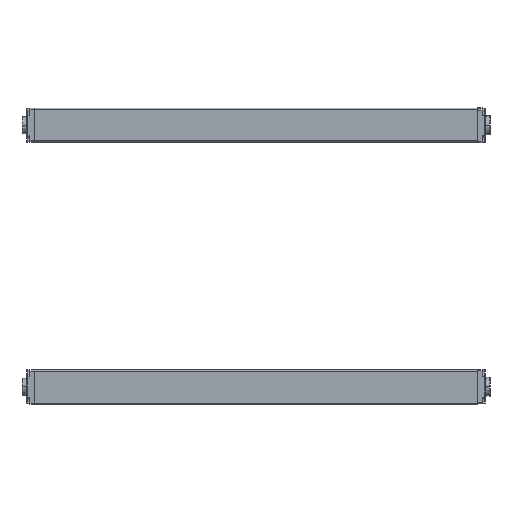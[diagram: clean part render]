
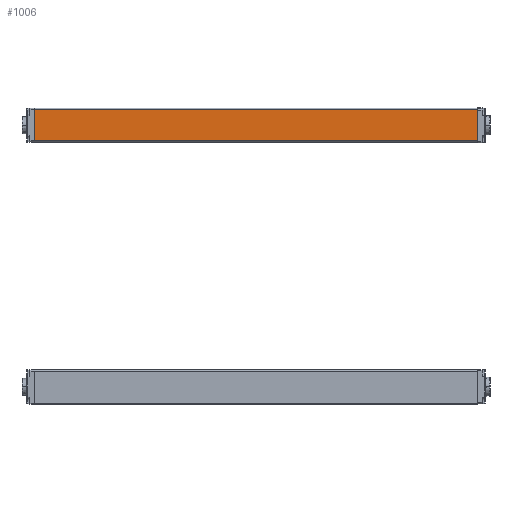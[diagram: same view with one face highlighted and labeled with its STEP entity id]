
A CAD part, left-side view. The second image highlights one B-rep face of the part: STEP entity #1006.
In plain terms, the highlighted planar face has unit normal (-1, 0, -0.009) as drawn and (-1, 0, 0) by its records, which use the part's own axes.
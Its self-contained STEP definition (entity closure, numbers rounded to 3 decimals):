
#859 = CARTESIAN_POINT ( 'NONE',  ( -15., 0., -16.9 ) ) ;
#1006 = ADVANCED_FACE ( 'NONE', ( #16919 ), #4493, .F. ) ;
#1008 = DIRECTION ( 'NONE',  ( 0., 0., 1. ) ) ;
#1368 = VECTOR ( 'NONE', #1927, 1000. ) ;
#1927 = DIRECTION ( 'NONE',  ( 0., -1., 0. ) ) ;
#2481 = EDGE_CURVE ( 'NONE', #16355, #4415, #14762, .T. ) ;
#3081 = DIRECTION ( 'NONE',  ( 0., 0., -1. ) ) ;
#3155 = CARTESIAN_POINT ( 'NONE',  ( -15., 390., 10.9 ) ) ;
#4370 = AXIS2_PLACEMENT_3D ( 'NONE', #10092, #15569, #3081 ) ;
#4415 = VERTEX_POINT ( 'NONE', #16048 ) ;
#4493 = PLANE ( 'NONE',  #4370 ) ;
#5581 = ORIENTED_EDGE ( 'NONE', *, *, #7386, .F. ) ;
#5823 = VECTOR ( 'NONE', #17742, 1000. ) ;
#6544 = DIRECTION ( 'NONE',  ( 0., 0., 1. ) ) ;
#6552 = VECTOR ( 'NONE', #6544, 1000. ) ;
#6743 = LINE ( 'NONE', #12285, #5823 ) ;
#6837 = ORIENTED_EDGE ( 'NONE', *, *, #10381, .T. ) ;
#7386 = EDGE_CURVE ( 'NONE', #10171, #11151, #8093, .T. ) ;
#7855 = ORIENTED_EDGE ( 'NONE', *, *, #2481, .T. ) ;
#8093 = LINE ( 'NONE', #13575, #11592 ) ;
#8973 = LINE ( 'NONE', #14447, #1368 ) ;
#8976 = EDGE_CURVE ( 'NONE', #11151, #4415, #6743, .T. ) ;
#9629 = CARTESIAN_POINT ( 'NONE',  ( -15., 0., -16.693 ) ) ;
#10092 = CARTESIAN_POINT ( 'NONE',  ( -15., 390., -16.9 ) ) ;
#10171 = VERTEX_POINT ( 'NONE', #13834 ) ;
#10381 = EDGE_CURVE ( 'NONE', #10171, #16355, #8973, .T. ) ;
#11151 = VERTEX_POINT ( 'NONE', #3155 ) ;
#11592 = VECTOR ( 'NONE', #1008, 1000. ) ;
#12285 = CARTESIAN_POINT ( 'NONE',  ( -15., 390., 10.9 ) ) ;
#13575 = CARTESIAN_POINT ( 'NONE',  ( -15., 390., -16.9 ) ) ;
#13834 = CARTESIAN_POINT ( 'NONE',  ( -15., 390., -16.693 ) ) ;
#14447 = CARTESIAN_POINT ( 'NONE',  ( -15., 390., -16.693 ) ) ;
#14762 = LINE ( 'NONE', #859, #6552 ) ;
#15569 = DIRECTION ( 'NONE',  ( 1., 0., 0. ) ) ;
#15856 = ORIENTED_EDGE ( 'NONE', *, *, #8976, .F. ) ;
#16048 = CARTESIAN_POINT ( 'NONE',  ( -15., 0., 10.9 ) ) ;
#16355 = VERTEX_POINT ( 'NONE', #9629 ) ;
#16919 = FACE_OUTER_BOUND ( 'NONE', #17866, .T. ) ;
#17742 = DIRECTION ( 'NONE',  ( 0., -1., 0. ) ) ;
#17866 = EDGE_LOOP ( 'NONE', ( #5581, #6837, #7855, #15856 ) ) ;
